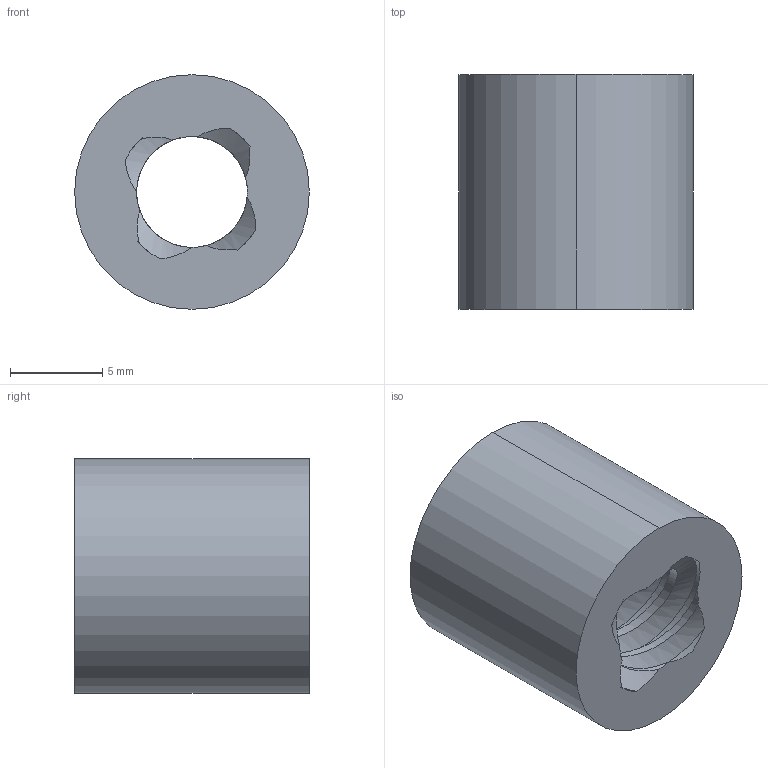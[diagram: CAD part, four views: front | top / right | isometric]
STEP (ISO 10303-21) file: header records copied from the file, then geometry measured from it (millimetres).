
FILE_DESCRIPTION (( 'STEP AP203' ), '1' );
FILE_NAME ('545314.STEP', '2016-08-15T21:20:38', ( '' ), ( '' ), 'SwSTEP 2.0', 'SolidWorks 2014', '' );
FILE_SCHEMA (( 'CONFIG_CONTROL_DESIGN' ));
Length unit declared in the file: inch
Products named in the file (1): 545314
Bounding box: 12.69 x 12.7 x 12.69 mm (x, y, z)
Volume: 1111.9 mm3; surface area: 1141.1 mm2
Topology: 1 solids, 1 shells, 34 faces, 96 edges, 64 vertices
Faces by surface type: cylinder 20, bspline 12, plane 2
Entity records: 49523 total; most frequent: CARTESIAN_POINT 48763, ORIENTED_EDGE 192, EDGE_CURVE 96, DIRECTION 90, VERTEX_POINT 64, AXIS2_PLACEMENT_3D 37, EDGE_LOOP 36, FACE_OUTER_BOUND 34
